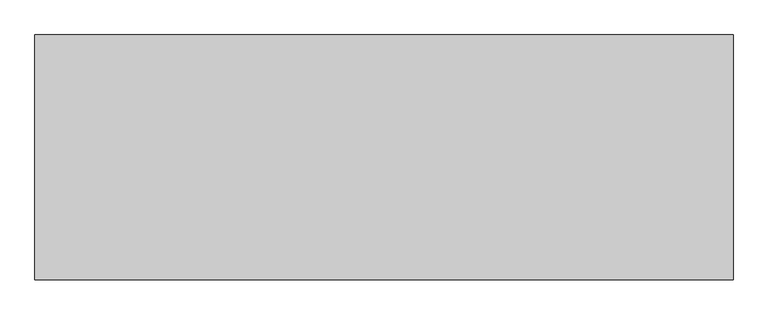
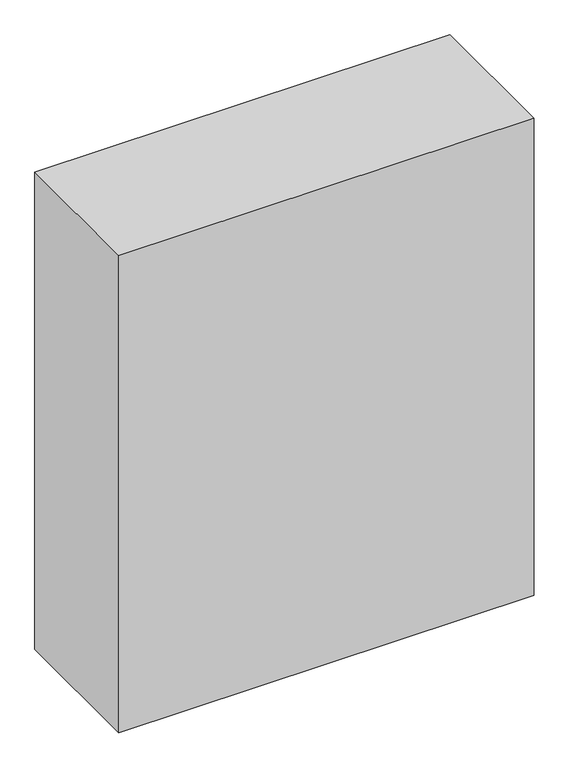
"""IFC4 building model written with IfcOpenShell, lengths in millimetres: proxy geometry."""

from ifc_helpers import new_model, si_unit, frame, origin, place, context, project, spatial, polyline, outline, extrude, source, transform, mapped, element, save


def generic_models_73274e46(model_context):
    return source(origin(), model_context, "Body", "SweptSolid", [
        extrude(outline(polyline([(11320.7903374, -252.4), (9880.7903374, -252.4), (9880.7903374, 252.4), (11320.7903374, 252.4), (11320.7903374, -252.4)])), frame((0.0, 0.0, 750.0), z_axis=(0.0, 0.0, 1.0), x_axis=(1.0, 0.0, 0.0)), (0.0, 0.0, 1.0), 1750.0),
    ])


if __name__ == "__main__":
    model = new_model("IFC4")
    model_context = context("Model", 3, world=origin())
    ifc_project = project(units=[si_unit("LENGTHUNIT", "METRE", prefix="MILLI")], contexts=[model_context])
    site = spatial("IfcSite", under=ifc_project)
    building = spatial("IfcBuilding", under=site)
    placement = place(None, origin())
    generic_models_shape = generic_models_73274e46(model_context)
    element("IfcBuildingElementProxy", 1, Name="Generic Models", at=placement, inside=building, context=model_context, shape_type="MappedRepresentation", body=[
        mapped(generic_models_shape, transform((0.0, 0.0, 0.0), x_axis=(1.0, 0.0, 0.0), y_axis=(0.0, 1.0, 0.0), z_axis=(0.0, 0.0, 1.0))),
    ])
    save(model, "model.ifc")
